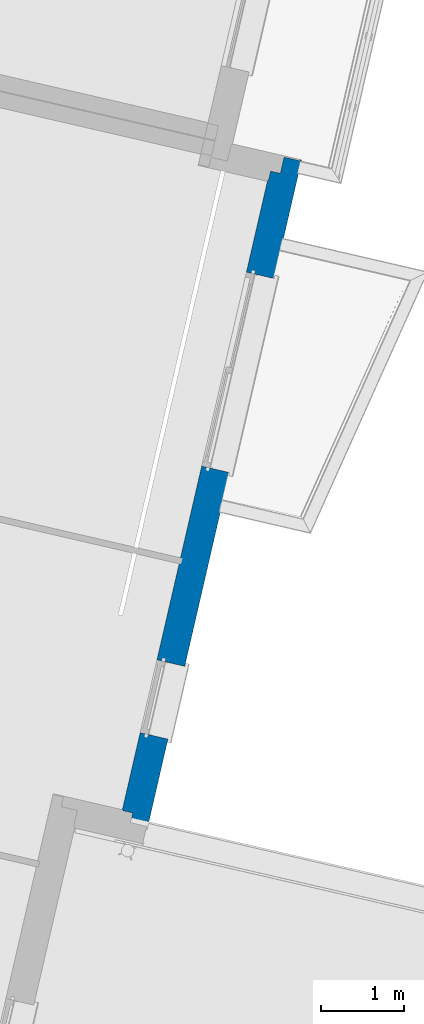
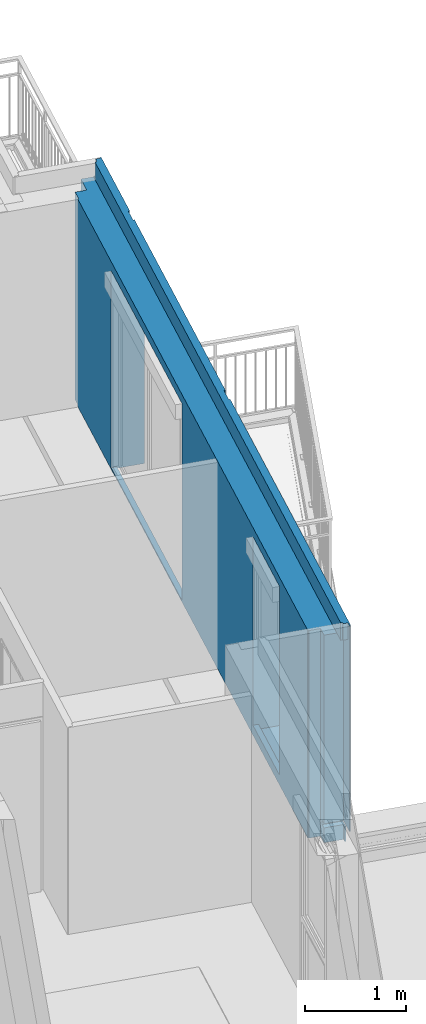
# One storey, part 28 of 90: 1 wall, 2 openings.
"""IFC2X3 building model written with IfcOpenShell, lengths in metres."""

from ifc_helpers import new_model, entity, si_unit, converted_unit, derived_unit, money_unit, direction, frame, origin_with_axes, place, context, subcontext, project, spatial, faceted_brep, material, material_list, type_object, element, save


model = new_model("IFC2X3")

# Units and contexts
model_context = context("Model", 3, precision=1e-05, world=origin_with_axes(), true_north=direction((0.0, 1.0)))
body_context = subcontext(model_context, "Body", "Model", "MODEL_VIEW")
ifc_project = project(units=[si_unit("LENGTHUNIT", "METRE"), si_unit("AREAUNIT", "SQUARE_METRE"), si_unit("VOLUMEUNIT", "CUBIC_METRE"), converted_unit("PLANEANGLEUNIT", "DEGREE", entity("IfcPlaneAngleMeasure", 0.0174532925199), si_unit("PLANEANGLEUNIT", "RADIAN"), dimensions=[0, 0, 0, 0, 0, 0, 0]), si_unit("SOLIDANGLEUNIT", "STERADIAN"), money_unit("EUR"), converted_unit("TIMEUNIT", "Year", entity("IfcTimeMeasure", 31556926.0), si_unit("TIMEUNIT", "SECOND"), dimensions=[0, 0, 1, 0, 0, 0, 0]), si_unit("MASSUNIT", "GRAM", prefix="KILO"), si_unit("THERMODYNAMICTEMPERATUREUNIT", "DEGREE_CELSIUS"), si_unit("LUMINOUSINTENSITYUNIT", "LUMEN"), si_unit("ENERGYUNIT", "JOULE", prefix="MEGA"), derived_unit("THERMALCONDUCTANCEUNIT", [(si_unit("POWERUNIT", "WATT"), 1), (si_unit("LENGTHUNIT", "METRE"), -1), (si_unit("THERMODYNAMICTEMPERATUREUNIT", "KELVIN"), -1)]), derived_unit("SPECIFICHEATCAPACITYUNIT", [(si_unit("ENERGYUNIT", "JOULE"), 1), (si_unit("MASSUNIT", "GRAM", prefix="KILO"), -1), (si_unit("THERMODYNAMICTEMPERATUREUNIT", "KELVIN"), -1)]), derived_unit("MASSDENSITYUNIT", [(si_unit("MASSUNIT", "GRAM", prefix="KILO"), 1), (si_unit("VOLUMEUNIT", "CUBIC_METRE"), -1)])], contexts=[model_context])

# Site, building, storey
site_placement = place(None, origin_with_axes())
site = spatial("IfcSite", under=ifc_project, at=site_placement, Name="Site", CompositionType="ELEMENT")
building_placement = place(site_placement, origin_with_axes())
building = spatial("IfcBuilding", under=site, at=building_placement, Name="Bâtiment", CompositionType="ELEMENT")
storey_placement = place(building_placement, frame((0.0, 0.0, 2.72), z_axis=(0.0, 0.0, 1.0), x_axis=(1.0, 0.0, 0.0)))
storey = spatial("IfcBuildingStorey", under=building, at=storey_placement, Name="R+1", CompositionType="ELEMENT", Elevation=2.72)

# Wall, openings
ifc_material_1 = material(Name="Finition ext - Crépis")
ifc_material_2 = material(Name="Béton cellulaire")
ifc_material_3 = material(Name="Mortier")
ifc_material_4 = material(Name="Isolation - Polystyrène expansé")
ifc_material_5 = material(Name="Bloc ELITHERM")
ifc_material_6 = material(Name="Isolation - Polystyrène extrudé")
ifc_material_7 = material(Name="Finition int - Plaque de plâtre")
ifc_material_list = material_list([ifc_material_1, ifc_material_2, ifc_material_3, ifc_material_4, ifc_material_5, ifc_material_6, ifc_material_7])
wall_type = type_object("IfcWallType", Name="Mur ALKERN + planelle 21 345 x 2720", PredefinedType="USERDEFINED")
wall_placement = place(storey_placement, frame((-1.22070172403, 2.38957520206, 0.0), z_axis=(0.0, 0.0, 1.0), x_axis=(-0.22487619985, -0.974387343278, 0.0)))
wall = element("IfcWall", 1, at=wall_placement, inside=storey, type_object=wall_type, material=ifc_material_list, Name="Mue bloc ALKERN isolé", ObjectType="SOLIDWALL", context=body_context, shape_type="Brep", body=[
    faceted_brep([(1.46826315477, 0.0, 0.02), (1.46826315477, 0.0, 0.0), (1.12826315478, 0.0, 0.0), (1.11828262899, 0.0, 0.0106237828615), (0.978243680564, 0.0, 0.0193762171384), (0.968263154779, 0.0, 0.01), (0.968263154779, 0.0, 0.0), (0.174999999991, 0.0, 0.0), (0.174999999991, 0.0, 0.01), (0.165019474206, 0.0, 0.0193762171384), (0.024980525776, 0.0, 0.0106237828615), (0.0149999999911, 0.0, 0.0), (7.00355240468e-09, 0.0, 0.0), (7.0035515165e-09, 0.0, 2.72), (0.968263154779, 0.0, 2.72), (0.968263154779, 0.0, 2.51999999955), (0.968263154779, 0.0, 2.50999999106), (0.968263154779, 0.0, 2.50872065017), (0.968263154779, 0.0, 2.5), (0.983263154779, 0.0, 2.5), (1.00300413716, 0.0, 2.5), (1.12826315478, 0.0, 2.5), (1.12826315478, 0.0, 2.50872065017), (1.12826315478, 0.0, 2.50999999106), (1.12826315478, 0.0, 2.51999999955), (1.12826315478, 0.0, 2.72), (4.20826315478, 0.0, 2.72), (4.20826315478, 0.0, 2.51999999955), (4.20826315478, 0.0, 2.50999999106), (4.20826315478, 0.0, 2.50872065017), (4.20826315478, 0.0, 2.5), (4.33352217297, 0.0, 2.5), (4.35326315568, 0.0, 2.5), (4.36826315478, 0.0, 2.5), (4.36826315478, 0.0, 2.50872065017), (4.36826315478, 0.0, 2.50999999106), (4.36826315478, 0.0, 2.51999999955), (4.36826315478, 0.0, 2.72), (8.45160944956, 0.0, 2.72), (8.45160944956, 0.0, 2.51999999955), (8.45160944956, 0.0, 2.50999999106), (8.45160944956, 0.0, 0.230000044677), (8.18991034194, 0.0, 0.230000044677), (8.18991034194, 0.0, 0.228000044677), (8.18991034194, 0.0, 0.188024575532), (8.18991034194, 0.0, 0.183746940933), (8.18991034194, 0.0, 0.180000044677), (8.2916094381, 0.0, 0.180000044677), (8.2916094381, 0.0, 0.0765427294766), (8.2916094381, 0.0, 0.0371447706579), (8.2916094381, 0.0, 0.0278539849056), (8.2916094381, 0.0, 0.0), (4.36826315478, 0.0, 0.0), (4.36826315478, 0.0, 0.01), (4.35828262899, 0.0, 0.0193762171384), (4.21824368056, 0.0, 0.0106237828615), (4.20826315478, 0.0, 0.0), (3.86826315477, 0.0, 0.0), (3.86826315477, 0.0, 0.02), (3.86826315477, 0.0, 2.22), (1.46826315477, 0.0, 2.22), (7.16748923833, 0.0, 0.06), (7.16748923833, 0.0, 0.12), (7.16748923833, 0.0, 2.22), (6.26748923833, 0.0, 2.22), (6.26748923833, 0.0, 0.12), (6.26748923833, 0.0, 0.06), (1.46826315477, -0.0149999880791, 0.02), (1.46826315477, -0.0149999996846, 0.0), (1.12826315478, -0.0150000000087, 0.0), (1.11828262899, -0.0150000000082, 0.0106237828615), (0.978243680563, -0.0150000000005, 0.0193762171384), (0.968263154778, -0.015, 0.01), (0.968263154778, -0.015, 0.0), (0.174999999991, -0.0149999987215, 0.0), (0.174999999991, -0.0149999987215, 0.01), (0.165019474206, -0.0149999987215, 0.0193762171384), (0.024980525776, -0.0149999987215, 0.0106237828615), (0.0149999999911, -0.0149999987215, 0.0), (6.99571645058e-09, -0.0149999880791, 0.0), (6.9957155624e-09, -0.0149999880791, 2.72), (0.968263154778, -0.015, 2.72), (0.968263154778, -0.015, 2.51999999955), (0.968263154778, -0.015, 2.50999999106), (0.968263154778, -0.015, 2.50872065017), (0.968263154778, -0.015, 2.5), (0.983263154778, -0.0150000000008, 2.5), (1.00300413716, -0.0150000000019, 2.5), (1.12826315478, -0.0150000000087, 2.5), (1.12826315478, -0.0150000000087, 2.50872065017), (1.12826315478, -0.0150000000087, 2.50999999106), (1.12826315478, -0.0150000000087, 2.51999999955), (1.12826315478, -0.0150000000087, 2.72), (4.20826315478, -0.014999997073, 2.72), (4.20826315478, -0.014999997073, 2.51999999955), (4.20826315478, -0.014999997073, 2.50999999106), (4.20826315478, -0.014999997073, 2.50872065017), (4.20826315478, -0.014999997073, 2.5), (4.33352217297, -0.0149999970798, 2.5), (4.35326315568, -0.0149999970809, 2.5), (4.36826315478, -0.0149999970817, 2.5), (4.36826315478, -0.0149999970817, 2.50872065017), (4.36826315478, -0.0149999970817, 2.50999999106), (4.36826315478, -0.0149999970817, 2.51999999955), (4.36826315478, -0.0149999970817, 2.72), (8.45160944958, -0.014999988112, 2.72), (8.45160944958, -0.0149999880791, 2.51999999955), (8.45160944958, -0.0149999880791, 2.50999999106), (8.45160944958, -0.014999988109, 0.230000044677), (8.18991034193, -0.0149999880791, 0.230000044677), (8.18991034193, -0.0149999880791, 0.228000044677), (8.18991034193, -0.0149999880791, 0.188024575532), (8.18991034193, -0.0149999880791, 0.183746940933), (8.18991034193, -0.0149999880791, 0.180000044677), (8.2916094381, -0.0149999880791, 0.180000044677), (8.2916094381, -0.0149999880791, 0.0765427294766), (8.2916094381, -0.0149999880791, 0.0371447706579), (8.2916094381, -0.0149999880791, 0.0278539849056), (8.2916094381, -0.0149999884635, 0.0), (4.36826315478, -0.0149999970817, 0.0), (4.36826315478, -0.0149999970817, 0.01), (4.35828262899, -0.0149999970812, 0.0193762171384), (4.21824368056, -0.0149999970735, 0.0106237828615), (4.20826315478, -0.014999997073, 0.0), (3.86826315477, -0.0149999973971, 0.0), (3.86826315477, -0.0149999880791, 0.02), (3.86826315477, -0.0149999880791, 2.22), (1.46826315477, -0.0149999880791, 2.22), (7.16748923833, -0.0149999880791, 0.06), (7.16748923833, -0.0149999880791, 0.12), (7.16748923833, -0.0149999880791, 2.22), (6.26748923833, -0.0149999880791, 2.22), (6.26748923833, -0.0149999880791, 0.12), (6.26748923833, -0.0149999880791, 0.06)], [[[0, 1, 2, 3, 4, 5, 6, 7, 8, 9, 10, 11, 12, 13, 14, 15, 16, 17, 18, 19, 20, 21, 22, 23, 24, 25, 26, 27, 28, 29, 30, 31, 32, 33, 34, 35, 36, 37, 38, 39, 40, 41, 42, 43, 44, 45, 46, 47, 48, 49, 50, 51, 52, 53, 54, 55, 56, 57, 58, 59, 60], [61, 62, 63, 64, 65, 66]], [[1, 0, 67, 68]], [[1, 68, 69, 2]], [[70, 3, 2, 69]], [[71, 4, 3, 70]], [[72, 5, 4, 71]], [[73, 6, 5, 72]], [[73, 74, 7, 6]], [[75, 8, 7, 74]], [[76, 9, 8, 75]], [[77, 10, 9, 76]], [[77, 78, 11, 10]], [[12, 11, 78, 79]], [[12, 79, 80, 13]], [[80, 81, 14, 13]], [[82, 15, 14, 81]], [[16, 15, 82, 83]], [[17, 16, 83, 84]], [[18, 17, 84, 85]], [[86, 19, 18, 85]], [[20, 19, 86, 87]], [[21, 20, 87, 88]], [[88, 89, 22, 21]], [[89, 90, 23, 22]], [[90, 91, 24, 23]], [[91, 92, 25, 24]], [[92, 93, 26, 25]], [[94, 27, 26, 93]], [[28, 27, 94, 95]], [[29, 28, 95, 96]], [[30, 29, 96, 97]], [[98, 31, 30, 97]], [[32, 31, 98, 99]], [[33, 32, 99, 100]], [[100, 101, 34, 33]], [[101, 102, 35, 34]], [[102, 103, 36, 35]], [[103, 104, 37, 36]], [[104, 105, 38, 37]], [[106, 39, 38, 105]], [[40, 39, 106, 107]], [[41, 40, 107, 108]], [[109, 42, 41, 108]], [[110, 43, 42, 109]], [[44, 43, 110, 111]], [[45, 44, 111, 112]], [[46, 45, 112, 113]], [[47, 46, 113, 114]], [[48, 47, 114, 115]], [[49, 48, 115, 116]], [[50, 49, 116, 117]], [[51, 50, 117, 118]], [[52, 51, 118, 119]], [[120, 53, 52, 119]], [[121, 54, 53, 120]], [[122, 55, 54, 121]], [[122, 123, 56, 55]], [[124, 57, 56, 123]], [[125, 58, 57, 124]], [[58, 125, 126, 59]], [[59, 126, 127, 60]], [[67, 0, 60, 127]], [[61, 128, 129, 62]], [[130, 63, 62, 129]], [[131, 64, 63, 130]], [[64, 131, 132, 65]], [[132, 133, 66, 65]], [[133, 128, 61, 66]], [[68, 67, 127, 126, 125, 124, 123, 122, 121, 120, 119, 118, 117, 116, 115, 114, 113, 112, 111, 110, 109, 108, 107, 106, 105, 104, 103, 102, 101, 100, 99, 98, 97, 96, 95, 94, 93, 92, 91, 90, 89, 88, 87, 86, 85, 84, 83, 82, 81, 80, 79, 78, 77, 76, 75, 74, 73, 72, 71, 70, 69], [133, 132, 131, 130, 129, 128]]]),
    faceted_brep([(0.0149999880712, -0.015, 2.51999999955), (0.0149999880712, -0.015, 2.72), (8.40360943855, -0.015, 2.72), (8.40360943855, -0.015, 2.51999999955), (0.0149999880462, -0.0629999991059, 2.72), (0.0149999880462, -0.0629999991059, 2.51999999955), (8.4036094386, -0.0629999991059, 2.72), (8.4036094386, -0.0629999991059, 2.51999999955)], [[[0, 1, 2, 3]], [[4, 1, 0, 5]], [[1, 4, 6, 2]], [[3, 2, 6, 7]], [[5, 0, 3, 7]], [[4, 5, 7, 6]]]),
    faceted_brep([(0.0149999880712, -0.015, 2.50999999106), (0.0149999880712, -0.015, 2.51999999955), (8.38360943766, -0.015, 2.52), (8.38360943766, -0.015, 2.51), (0.0149999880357, -0.083, 2.51999999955), (0.0149999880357, -0.083, 2.50999999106), (8.38360943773, -0.083, 2.52), (8.38360943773, -0.083, 2.51)], [[[0, 1, 2, 3]], [[4, 1, 0, 5]], [[1, 4, 6, 2]], [[3, 2, 6, 7]], [[5, 0, 3, 7]], [[4, 5, 7, 6]]]),
    faceted_brep([(8.38360943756, -0.0630000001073, 2.51999999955), (0.062999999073, -0.0630000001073, 2.51999999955), (0.062999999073, -0.0630000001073, 2.72), (8.38360943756, -0.0630000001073, 2.72), (8.38360943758, -0.083000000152, 2.51999999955), (0.0629999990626, -0.083000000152, 2.51999999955), (0.0629999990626, -0.083000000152, 2.72), (8.38360943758, -0.083000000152, 2.72)], [[[0, 1, 2, 3]], [[4, 5, 1, 0]], [[5, 6, 2, 1]], [[3, 2, 6, 7]], [[4, 0, 3, 7]], [[7, 6, 5, 4]]]),
    faceted_brep([(1.46826315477, -0.015, 0.02), (1.46826315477, -0.015, 0.0), (0.0149999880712, -0.015, 0.0), (0.0149999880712, -0.015, 2.50999999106), (8.2516094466, -0.015, 2.50999999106), (8.2516094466, -0.015, 0.230000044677), (8.18991034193, -0.015, 0.230000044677), (8.18991034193, -0.015, 0.228000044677), (8.18991034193, -0.015, 0.188024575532), (8.18991034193, -0.015, 0.183746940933), (8.18991034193, -0.015, 0.180000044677), (8.2516094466, -0.015, 0.180000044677), (8.2516094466, -0.015, 0.0), (3.86826315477, -0.015, 0.0), (3.86826315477, -0.015, 0.02), (3.86826315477, -0.015, 2.22), (1.46826315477, -0.015, 2.22), (7.16748923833, -0.015, 0.06), (7.16748923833, -0.015, 0.12), (7.16748923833, -0.015, 2.22), (6.26748923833, -0.015, 2.22), (6.26748923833, -0.015, 0.12), (6.26748923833, -0.015, 0.06), (1.46826315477, -0.214999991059, 0.02), (1.46826315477, -0.214999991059, 0.0), (0.0149999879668, -0.214999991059, 0.0), (0.0149999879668, -0.214999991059, 2.50999999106), (0.0149999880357, -0.0829999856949, 2.50999999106), (8.25160944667, -0.0829999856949, 2.50999999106), (8.25160944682, -0.214999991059, 2.50999999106), (8.25160944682, -0.214999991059, 0.230000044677), (8.18991034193, -0.214999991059, 0.230000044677), (8.18991034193, -0.214999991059, 0.228000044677), (8.18991034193, -0.214999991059, 0.188024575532), (8.18991034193, -0.214999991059, 0.183746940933), (8.18991034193, -0.214999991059, 0.180000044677), (8.25160944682, -0.214999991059, 0.180000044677), (8.25160944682, -0.214999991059, 0.0), (3.86826315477, -0.214999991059, 0.0), (3.86826315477, -0.214999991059, 0.02), (3.86826315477, -0.214999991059, 2.22), (1.46826315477, -0.214999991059, 2.22), (7.16748923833, -0.214999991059, 0.06), (7.16748923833, -0.214999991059, 0.12), (7.16748923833, -0.214999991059, 2.22), (6.26748923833, -0.214999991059, 2.22), (6.26748923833, -0.214999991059, 0.12), (6.26748923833, -0.214999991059, 0.06)], [[[0, 1, 2, 3, 4, 5, 6, 7, 8, 9, 10, 11, 12, 13, 14, 15, 16], [17, 18, 19, 20, 21, 22]], [[1, 0, 23, 24]], [[1, 24, 25, 2]], [[25, 26, 27, 3, 2]], [[3, 27, 28, 4]], [[28, 29, 30, 5, 4]], [[6, 5, 30, 31]], [[7, 6, 31, 32]], [[7, 32, 33, 8]], [[8, 33, 34, 9]], [[9, 34, 35, 10]], [[10, 35, 36, 11]], [[11, 36, 37, 12]], [[38, 13, 12, 37]], [[39, 14, 13, 38]], [[14, 39, 40, 15]], [[15, 40, 41, 16]], [[23, 0, 16, 41]], [[17, 42, 43, 18]], [[44, 19, 18, 43]], [[45, 20, 19, 44]], [[20, 45, 46, 21]], [[46, 47, 22, 21]], [[47, 42, 17, 22]], [[24, 23, 41, 40, 39, 38, 37, 36, 35, 34, 33, 32, 31, 30, 29, 26, 25], [47, 46, 45, 44, 43, 42]], [[27, 26, 29, 28]]]),
    faceted_brep([(1.46826315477, -0.245, 0.02), (1.46826315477, -0.215000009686, 0.02), (1.46826315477, -0.215, 2.22), (1.46826315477, -0.245, 2.22), (1.46826315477, -0.215000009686, 0.0), (1.46826315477, -0.286, 0.02), (1.46826315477, -0.286, 0.0), (3.86826315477, -0.215000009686, 0.0), (3.86826315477, -0.215000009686, 0.02), (3.86826315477, -0.215, 2.22), (3.86826315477, -0.215, 2.4), (1.46826315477, -0.215, 2.4), (0.214999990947, -0.215000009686, 0.0), (0.214999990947, -0.215000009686, 2.50999999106), (8.13160942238, -0.215000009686, 2.51), (8.13160942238, -0.215000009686, 0.0), (6.26748923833, -0.215, 2.4), (6.26748923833, -0.215, 2.22), (6.26748923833, -0.215000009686, 0.12), (6.26748923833, -0.215000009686, 0.06), (7.16748923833, -0.215000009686, 0.06), (7.16748923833, -0.215000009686, 0.12), (7.16748923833, -0.215, 2.22), (7.16748923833, -0.215, 2.4), (1.46826315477, -0.335000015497, 2.4), (1.46826315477, -0.335000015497, 2.22), (1.46826315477, -0.335000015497, 0.02), (3.86826315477, -0.286, 0.02), (3.86826315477, -0.286, 0.0), (8.13160942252, -0.335000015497, 0.0), (0.214999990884, -0.335000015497, 0.0), (3.86826315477, -0.245, 0.02), (3.86826315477, -0.245, 2.22), (3.86826315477, -0.335000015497, 2.22), (3.86826315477, -0.335000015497, 2.4), (0.214999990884, -0.335000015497, 2.50999999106), (8.13160942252, -0.335000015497, 2.51), (6.26748923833, -0.335000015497, 2.4), (6.26748923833, -0.335000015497, 2.22), (6.26748923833, -0.245, 2.22), (6.26748923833, -0.245, 0.12), (6.26748923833, -0.286, 0.12), (6.26748923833, -0.286, 0.06), (7.16748923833, -0.286, 0.06), (7.16748923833, -0.286, 0.12), (7.16748923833, -0.245, 0.12), (7.16748923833, -0.245, 2.22), (7.16748923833, -0.335000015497, 2.22), (7.16748923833, -0.335000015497, 2.4), (6.26748923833, -0.335000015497, 0.12), (7.16748923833, -0.335000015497, 0.12), (3.86826315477, -0.335000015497, 0.02)], [[[0, 1, 2, 3]], [[4, 1, 0, 5, 6]], [[7, 8, 9, 10, 11, 2, 1, 4, 12, 13, 14, 15], [16, 17, 18, 19, 20, 21, 22, 23]], [[24, 25, 3, 2, 11]], [[5, 0, 3, 25, 26]], [[5, 27, 28, 6]], [[28, 7, 15, 29, 30, 12, 4, 6]], [[31, 8, 7, 28, 27]], [[8, 31, 32, 9]], [[32, 33, 34, 10, 9]], [[10, 34, 24, 11]], [[30, 35, 13, 12]], [[14, 13, 35, 36]], [[29, 15, 14, 36]], [[17, 16, 37, 38, 39]], [[40, 18, 17, 39]], [[41, 42, 19, 18, 40]], [[20, 19, 42, 43]], [[43, 44, 45, 21, 20]], [[21, 45, 46, 22]], [[23, 22, 46, 47, 48]], [[23, 48, 37, 16]], [[36, 35, 30, 29], [49, 38, 37, 48, 47, 50], [26, 25, 24, 34, 33, 51]], [[27, 5, 26, 51]], [[31, 27, 51, 33, 32]], [[38, 49, 41, 40, 39]], [[41, 44, 43, 42]], [[47, 46, 45, 44, 50]], [[44, 41, 49, 50]]]),
    faceted_brep([(8.12160945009, -0.335000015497, 0.0), (0.335000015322, -0.335000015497, 0.0), (0.335000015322, -0.335000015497, 2.51), (8.12160945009, -0.335000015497, 2.51), (7.16748923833, -0.335000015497, 2.22), (7.16748923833, -0.335000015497, 2.4), (6.26748923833, -0.335000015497, 2.4), (6.26748923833, -0.335000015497, 2.22), (6.26748923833, -0.335000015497, 0.12), (7.16748923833, -0.335000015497, 0.12), (3.86826315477, -0.335000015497, 2.22), (3.86826315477, -0.335000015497, 2.4), (1.46826315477, -0.335000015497, 2.4), (1.46826315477, -0.335000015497, 2.22), (1.46826315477, -0.335000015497, 0.02), (3.86826315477, -0.335000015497, 0.02), (8.1216094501, -0.34499998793, 0.0), (0.335000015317, -0.34499998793, 0.0), (0.335000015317, -0.34499998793, 2.51), (8.1216094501, -0.34499998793, 2.51), (7.16748923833, -0.34499998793, 2.22), (7.16748923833, -0.34499998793, 2.4), (6.26748923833, -0.34499998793, 2.4), (6.26748923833, -0.34499998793, 2.22), (6.26748923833, -0.34499998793, 0.12), (7.16748923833, -0.34499998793, 0.12), (3.86826315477, -0.34499998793, 2.22), (3.86826315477, -0.34499998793, 2.4), (1.46826315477, -0.34499998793, 2.4), (1.46826315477, -0.34499998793, 2.22), (1.46826315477, -0.34499998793, 0.02), (3.86826315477, -0.34499998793, 0.02)], [[[0, 1, 2, 3], [4, 5, 6, 7, 8, 9], [10, 11, 12, 13, 14, 15]], [[16, 17, 1, 0]], [[17, 18, 2, 1]], [[3, 2, 18, 19]], [[16, 0, 3, 19]], [[20, 21, 5, 4]], [[21, 22, 6, 5]], [[22, 23, 7, 6]], [[24, 8, 7, 23]], [[25, 9, 8, 24]], [[9, 25, 20, 4]], [[11, 10, 26, 27]], [[12, 11, 27, 28]], [[13, 12, 28, 29]], [[13, 29, 30, 14]], [[14, 30, 31, 15]], [[26, 10, 15, 31]], [[19, 18, 17, 16], [21, 20, 25, 24, 23, 22], [27, 26, 31, 30, 29, 28]]]),
])
opening_1_placement = place(wall_placement, frame((6.71748923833, 0.0, 0.12), z_axis=(0.0, 0.0, 1.0), x_axis=(1.0, 0.0, 0.0)))
element("IfcOpeningElement", 2, at=opening_1_placement, cuts=wall, Name="MEN 33", context=body_context, shape_type="Brep", body=[
    faceted_brep([(-0.45, -0.83499998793, 0.0), (-0.45, -0.83499998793, 2.1), (-0.45, -0.245, 2.1), (-0.45, -0.245, 0.0), (0.45, -0.83499998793, 0.0), (0.45, -0.83499998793, 2.1), (0.45, -0.245, 2.1), (0.45, -0.245, 0.0)], [[[0, 1, 2, 3]], [[0, 4, 5, 1]], [[1, 5, 6, 2]], [[3, 2, 6, 7]], [[4, 0, 3, 7]], [[5, 4, 7, 6]]]),
    faceted_brep([(-0.45, 0.34499998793, 0.0), (0.45, 0.34499998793, 0.0), (0.45, -0.245, 0.0), (-0.45, -0.245, 0.0), (-0.45, 0.34499998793, 2.1), (0.45, 0.34499998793, 2.1), (0.45, -0.245, 2.1), (-0.45, -0.245, 2.1)], [[[0, 1, 2, 3]], [[0, 4, 5, 1]], [[1, 5, 6, 2]], [[3, 2, 6, 7]], [[4, 0, 3, 7]], [[5, 4, 7, 6]]]),
    faceted_brep([(-0.45, 0.34499998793, 0.0), (0.45, 0.34499998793, 0.0), (0.45, -0.245, 0.0), (-0.45, -0.245, 0.0), (-0.45, 0.34499998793, 2.1), (0.45, 0.34499998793, 2.1), (0.45, -0.245, 2.1), (-0.45, -0.245, 2.1)], [[[0, 1, 2, 3]], [[0, 4, 5, 1]], [[1, 5, 6, 2]], [[3, 2, 6, 7]], [[4, 0, 3, 7]], [[5, 4, 7, 6]]]),
    faceted_brep([(-0.45, -0.80499998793, 2.1), (-0.45, -0.80499998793, 2.28), (-0.45, -0.215, 2.28), (-0.45, -0.215, 2.1), (0.45, -0.80499998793, 2.1), (0.45, -0.80499998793, 2.28), (0.45, -0.215, 2.28), (0.45, -0.215, 2.1)], [[[0, 1, 2, 3]], [[0, 4, 5, 1]], [[1, 5, 6, 2]], [[3, 2, 6, 7]], [[4, 0, 3, 7]], [[5, 4, 7, 6]]]),
    faceted_brep([(-0.45, 0.30399998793, 0.0), (-0.45, 0.30399998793, -0.06), (-0.45, -0.286, -0.06), (-0.45, -0.286, 0.0), (0.45, 0.30399998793, 0.0), (0.45, 0.30399998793, -0.06), (0.45, -0.286, -0.06), (0.45, -0.286, 0.0)], [[[0, 1, 2, 3]], [[0, 4, 5, 1]], [[1, 5, 6, 2]], [[3, 2, 6, 7]], [[4, 0, 3, 7]], [[5, 4, 7, 6]]]),
])
opening_2_placement = place(wall_placement, frame((2.66826315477, 0.0, 0.02), z_axis=(0.0, 0.0, 1.0), x_axis=(1.0, 0.0, 0.0)))
element("IfcOpeningElement", 3, at=opening_2_placement, cuts=wall, Name="MEN 34", context=body_context, shape_type="Brep", body=[
    faceted_brep([(-1.2, -0.245, 0.0), (1.2, -0.245, 0.0), (1.2, -0.83499998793, 0.0), (-1.2, -0.83499998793, 0.0), (-1.2, -0.245, 2.2), (1.2, -0.245, 2.2), (1.2, -0.83499998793, 2.2), (-1.2, -0.83499998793, 2.2)], [[[0, 1, 2, 3]], [[0, 4, 5, 1]], [[1, 5, 6, 2]], [[3, 2, 6, 7]], [[4, 0, 3, 7]], [[5, 4, 7, 6]]]),
    faceted_brep([(-1.2, -0.245, 0.0), (-1.2, -0.245, 2.2), (-1.2, 0.34499998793, 2.2), (-1.2, 0.34499998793, 0.0), (1.2, -0.245, 0.0), (1.2, -0.245, 2.2), (1.2, 0.34499998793, 2.2), (1.2, 0.34499998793, 0.0)], [[[0, 1, 2, 3]], [[0, 4, 5, 1]], [[1, 5, 6, 2]], [[3, 2, 6, 7]], [[4, 0, 3, 7]], [[5, 4, 7, 6]]]),
    faceted_brep([(-1.2, -0.245, 0.0), (-1.2, -0.245, 2.2), (-1.2, 0.34499998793, 2.2), (-1.2, 0.34499998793, 0.0), (1.2, -0.245, 0.0), (1.2, -0.245, 2.2), (1.2, 0.34499998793, 2.2), (1.2, 0.34499998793, 0.0)], [[[0, 1, 2, 3]], [[0, 4, 5, 1]], [[1, 5, 6, 2]], [[3, 2, 6, 7]], [[4, 0, 3, 7]], [[5, 4, 7, 6]]]),
    faceted_brep([(-1.2, -0.215, 2.2), (1.2, -0.215, 2.2), (1.2, -0.80499998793, 2.2), (-1.2, -0.80499998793, 2.2), (-1.2, -0.215, 2.38), (1.2, -0.215, 2.38), (1.2, -0.80499998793, 2.38), (-1.2, -0.80499998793, 2.38)], [[[0, 1, 2, 3]], [[0, 4, 5, 1]], [[1, 5, 6, 2]], [[3, 2, 6, 7]], [[4, 0, 3, 7]], [[5, 4, 7, 6]]]),
    faceted_brep([(-1.2, -0.286, 0.0), (1.2, -0.286, 0.0), (1.2, 0.30399998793, 0.0), (-1.2, 0.30399998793, 0.0), (-1.2, -0.286, -0.06), (1.2, -0.286, -0.06), (1.2, 0.30399998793, -0.06), (-1.2, 0.30399998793, -0.06)], [[[0, 1, 2, 3]], [[0, 4, 5, 1]], [[1, 5, 6, 2]], [[3, 2, 6, 7]], [[4, 0, 3, 7]], [[5, 4, 7, 6]]]),
])

save(model, "model.ifc")
